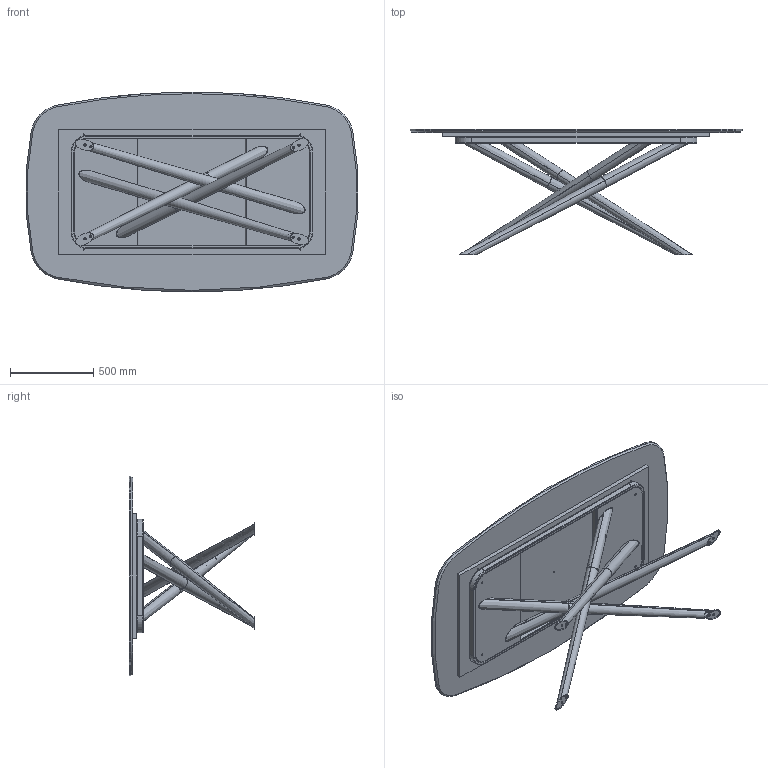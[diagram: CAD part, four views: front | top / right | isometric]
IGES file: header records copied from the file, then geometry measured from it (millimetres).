
Start section: SolidWorks IGES file using analytic representation for surfaces
Global section: file name: Y:\eforma\TECNICO\SOLIDWORKS\E-FORMA\1-TAVOLI\BALY\02 parts\BA41M.IGS; native system: SolidWorks 2022; preprocessor: SolidWorks 2022; author: eforma.tech; date: 240808.081817; units: millimetre
Bounding box: 1992.14 x 754 x 1200 mm (x, y, z)
Volume: 79250157.5 mm3; surface area: 11206804.1 mm2
Topology: 28 solids, 28 shells, 704 faces, 1484 edges, 815 vertices
Faces by surface type: revolution 394, plane 292, bspline 18
